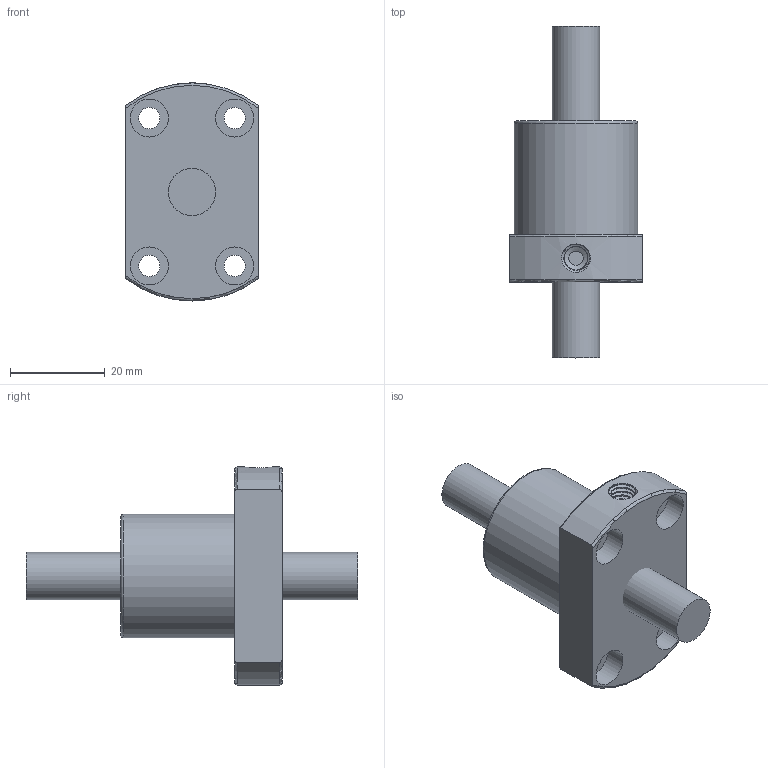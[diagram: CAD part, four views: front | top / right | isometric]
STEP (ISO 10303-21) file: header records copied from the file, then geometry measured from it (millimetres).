
FILE_DESCRIPTION(/* description */ (''),/* implementation_level */ '2;1');
FILE_NAME(/* name */ 'XSK01004.stp',/* time_stamp */ '2022-12-14T15:50:33+08:00',/* author */ (''),/* organization */ (''),/* preprocessor_version */ 'ST-DEVELOPER v16.7',/* originating_system */ 'SIEMENS PLM Software NX 1892',/* authorisation */ '');
FILE_SCHEMA (('AUTOMOTIVE_DESIGN { 1 0 10303 214 3 1 1 1 }'));
Length unit declared in the file: millimetre
Products named in the file (1): 031623C0FC89uvda
Bounding box: 28 x 70 x 46 mm (x, y, z)
Volume: 28769.1 mm3; surface area: 8918.6 mm2
Topology: 2 solids, 2 shells, 38 faces, 82 edges, 54 vertices
Faces by surface type: cylinder 15, plane 13, torus 5, bspline 4, cone 1
Full cylindrical faces by diameter (mm): 3 x1, 4.5 x4, 8 x4, 10 x1, 26 x1
Entity records: 3023 total; most frequent: CARTESIAN_POINT 2224, DIRECTION 145, ORIENTED_EDGE 136, EDGE_CURVE 68, AXIS2_PLACEMENT_3D 67, EDGE_LOOP 65, VERTEX_POINT 53, FACE_BOUND 47
